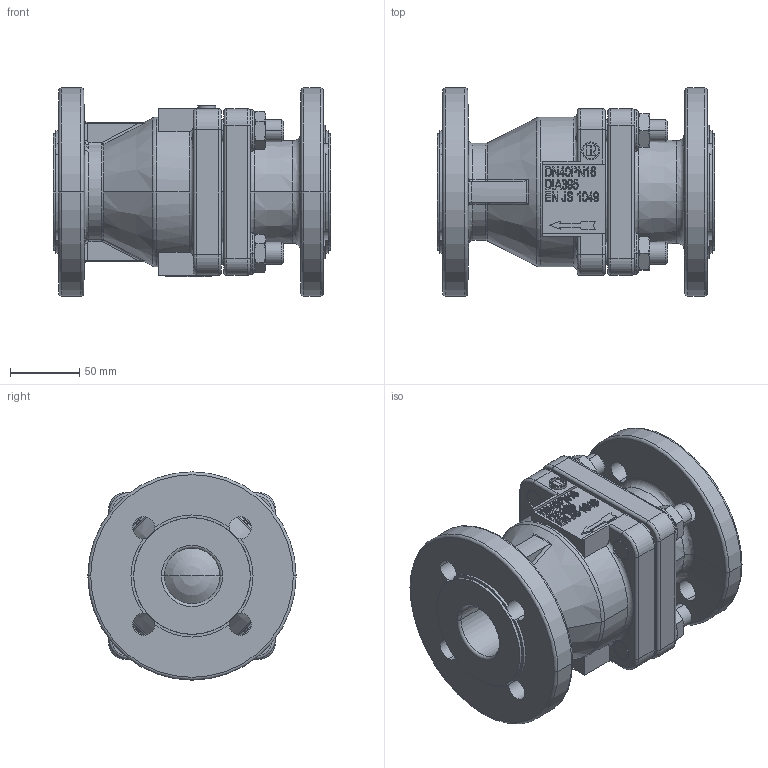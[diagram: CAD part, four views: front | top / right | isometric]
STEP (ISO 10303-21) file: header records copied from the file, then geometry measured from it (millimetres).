
FILE_DESCRIPTION((''),'2;1');
FILE_NAME('9595-40-0303_E_CV40_PROE','2015-03-23T',('SParmar1'),(''),'PRO/ENGINEER BY PARAMETRIC TECHNOLOGY CORPORATION, 2011040','PRO/ENGINEER BY PARAMETRIC TECHNOLOGY CORPORATION, 2011040','');
FILE_SCHEMA(('CONFIG_CONTROL_DESIGN'));
Length unit declared in the file: millimetre
Products named in the file (1): 9595-40-0303_E_CV40_PROE
Bounding box: 200 x 150 x 150 mm (x, y, z)
Volume: 1773013.5 mm3; surface area: 218360.8 mm2
Topology: 1 solids, 14 shells, 902 faces, 2381 edges, 1537 vertices
Faces by surface type: plane 330, extrusion 263, cylinder 163, cone 84, torus 44, bspline 12, sphere 6
Entity records: 30358 total; most frequent: CARTESIAN_POINT 9013, ORIENTED_EDGE 4698, DIRECTION 3731, EDGE_CURVE 2377, VERTEX_POINT 1537, VECTOR 1335, AXIS2_PLACEMENT_3D 1198, LINE 1072
